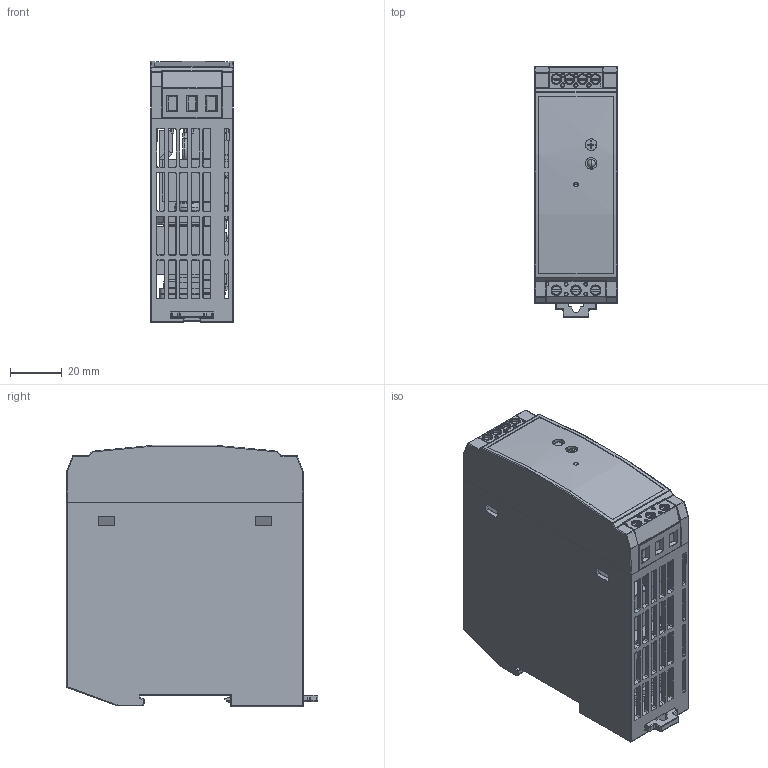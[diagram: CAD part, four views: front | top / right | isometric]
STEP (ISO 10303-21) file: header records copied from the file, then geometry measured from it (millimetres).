
FILE_DESCRIPTION((''),'2;1');
FILE_NAME('0TOP_DG-60-S24','2022-08-10T17:32:58',('pd071'),(''),'CREO PARAMETRIC BY PTC INC, 2017260','CREO PARAMETRIC BY PTC INC, 2017260','');
FILE_SCHEMA(('CONFIG_CONTROL_DESIGN','SHAPE_APPEARANCE_LAYERS_GROUPS'));
Products named in the file (1): 0TOP_DG-60-S24
Bounding box: 32 x 97.49 x 101.44 mm (x, y, z)
Surface area: 154503.4 mm2 (no closed solid volume)
Topology: 0 solids, 329 shells, 3157 faces, 9759 edges, 6865 vertices
Faces by surface type: plane 2206, cylinder 671, cone 117, torus 108, sphere 28, bspline 27
Entity records: 124615 total; most frequent: CARTESIAN_POINT 22932, DIRECTION 17050, ORIENTED_EDGE 16294, EDGE_CURVE 9753, VECTOR 7578, LINE 7578, VERTEX_POINT 6865, AXIS2_PLACEMENT_3D 4736
